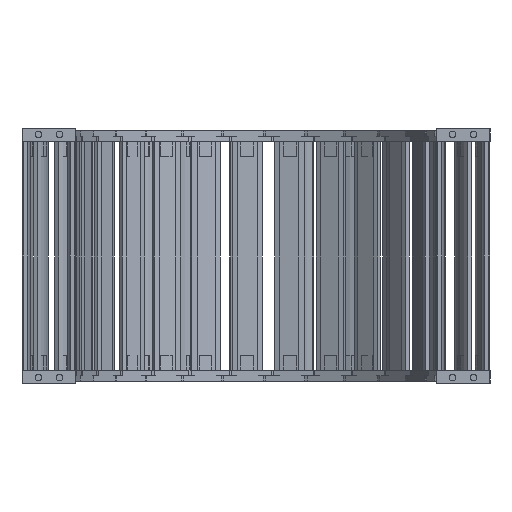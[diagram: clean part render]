
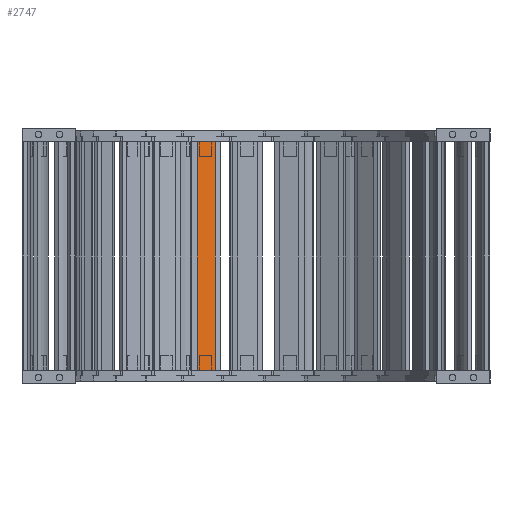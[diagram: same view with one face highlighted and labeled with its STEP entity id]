
A CAD part, left-side view. The second image highlights one B-rep face of the part: STEP entity #2747.
In plain terms, the highlighted planar face has unit normal (-0.96, -0.28, 0) as drawn and (0, -1, 0) by its records, which use the part's own axes.
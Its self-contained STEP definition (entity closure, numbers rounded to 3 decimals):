
#2634=DIRECTION('',(0.,0.,-1.));
#2635=VECTOR('',#2634,275.6);
#2636=CARTESIAN_POINT('',(-11.5,-61.,37.5));
#2637=LINE('',#2636,#2635);
#2651=DIRECTION('',(1.,0.,0.));
#2652=VECTOR('',#2651,23.);
#2653=CARTESIAN_POINT('',(-11.5,-61.,37.5));
#2654=LINE('',#2653,#2652);
#2684=DIRECTION('',(-1.,0.,0.));
#2685=VECTOR('',#2684,23.);
#2686=CARTESIAN_POINT('',(11.5,-61.,-238.1));
#2687=LINE('',#2686,#2685);
#2700=DIRECTION('',(0.,0.,-1.));
#2701=VECTOR('',#2700,275.6);
#2702=CARTESIAN_POINT('',(11.5,-61.,37.5));
#2703=LINE('',#2702,#2701);
#2714=CARTESIAN_POINT('',(11.5,-61.,-238.1));
#2715=VERTEX_POINT('',#2714);
#2716=CARTESIAN_POINT('',(-11.5,-61.,-238.1));
#2717=VERTEX_POINT('',#2716);
#2726=CARTESIAN_POINT('',(11.5,-61.,37.5));
#2727=VERTEX_POINT('',#2726);
#2730=CARTESIAN_POINT('',(-11.5,-61.,37.5));
#2731=VERTEX_POINT('',#2730);
#2732=CARTESIAN_POINT('',(15.5,-61.,-238.1));
#2733=DIRECTION('',(0.,1.,0.));
#2734=DIRECTION('',(-1.,0.,0.));
#2735=AXIS2_PLACEMENT_3D('',#2732,#2733,#2734);
#2736=PLANE('',#2735);
#2738=ORIENTED_EDGE('',*,*,#2737,.F.);
#2740=ORIENTED_EDGE('',*,*,#2739,.T.);
#2742=ORIENTED_EDGE('',*,*,#2741,.T.);
#2744=ORIENTED_EDGE('',*,*,#2743,.T.);
#2745=EDGE_LOOP('',(#2738,#2740,#2742,#2744));
#2746=FACE_OUTER_BOUND('',#2745,.F.);
#2747=ADVANCED_FACE('',(#2746),#2736,.F.);
#2737=EDGE_CURVE('',#2731,#2717,#2637,.T.);
#2739=EDGE_CURVE('',#2731,#2727,#2654,.T.);
#2741=EDGE_CURVE('',#2727,#2715,#2703,.T.);
#2743=EDGE_CURVE('',#2715,#2717,#2687,.T.);
